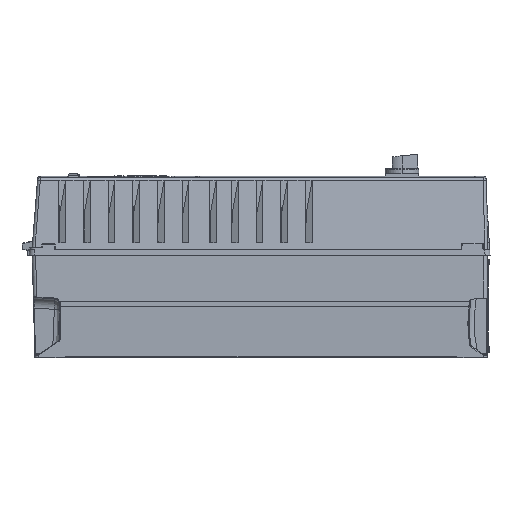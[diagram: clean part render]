
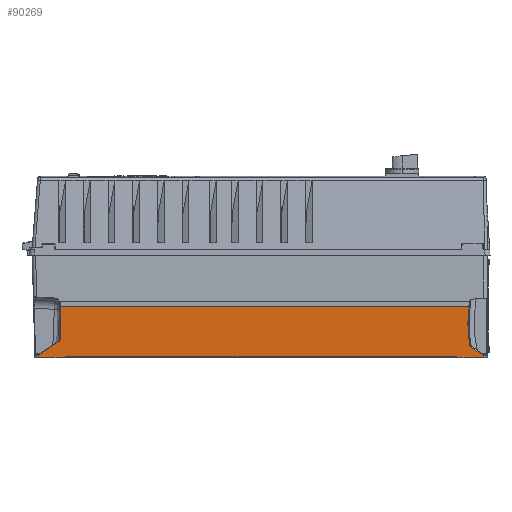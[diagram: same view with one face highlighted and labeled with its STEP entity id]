
A CAD part, left-side view. The second image highlights one B-rep face of the part: STEP entity #90269.
In plain terms, the highlighted planar face has unit normal (-1, 0, -0.024).
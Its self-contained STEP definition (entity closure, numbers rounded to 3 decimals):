
#2395=CARTESIAN_POINT('',(-119.001,314.035,
-149.968));
#2417=CARTESIAN_POINT('',(-119.074,314.114,
-146.974));
#2419=DIRECTION('',(0.024,-0.026,-0.999));
#2420=VECTOR('',#2419,2.996);
#2421=CARTESIAN_POINT('',(-119.074,314.114,
-146.974));
#2422=LINE('',#2421,#2420);
#2667=CARTESIAN_POINT('',(-120.75,-296.785,
-78.395));
#2669=DIRECTION('',(0.,1.,0.));
#2670=VECTOR('',#2669,579.587);
#2671=CARTESIAN_POINT('',(-120.75,-296.785,
-78.395));
#2672=LINE('',#2671,#2670);
#3037=DIRECTION('',(0.024,0.,-1.));
#3038=VECTOR('',#3037,2.993);
#3039=CARTESIAN_POINT('',(-119.074,-318.,
-146.976));
#3040=LINE('',#3039,#3038);
#3041=DIRECTION('',(0.,1.,0.));
#3042=VECTOR('',#3041,36.727);
#3043=CARTESIAN_POINT('',(-119.001,-318.,
-149.968));
#3044=LINE('',#3043,#3042);
#3045=CARTESIAN_POINT('',(-119.001,-281.273,
-149.968));
#3046=CARTESIAN_POINT('',(-119.001,-281.041,
-149.968));
#3047=CARTESIAN_POINT('',(-119.002,-280.587,
-149.919));
#3048=CARTESIAN_POINT('',(-119.005,-280.154,
-149.779));
#3049=CARTESIAN_POINT('',(-119.008,-279.943,
-149.684));
#3051=CARTESIAN_POINT('',(-119.008,-279.943,
-149.684));
#3052=CARTESIAN_POINT('',(-119.011,-279.635,
-149.546));
#3053=CARTESIAN_POINT('',(-119.016,-279.002,
-149.34));
#3054=CARTESIAN_POINT('',(-119.018,-278.339,
-149.268));
#3055=CARTESIAN_POINT('',(-119.018,-278.,
-149.268));
#3057=DIRECTION('',(0.,1.,0.));
#3058=VECTOR('',#3057,552.033);
#3059=CARTESIAN_POINT('',(-119.018,-278.,
-149.268));
#3060=LINE('',#3059,#3058);
#3061=CARTESIAN_POINT('',(-119.018,274.033,
-149.268));
#3062=CARTESIAN_POINT('',(-119.018,274.371,
-149.268));
#3063=CARTESIAN_POINT('',(-119.016,275.032,
-149.34));
#3064=CARTESIAN_POINT('',(-119.011,275.666,
-149.545));
#3065=CARTESIAN_POINT('',(-119.008,275.976,
-149.684));
#3067=CARTESIAN_POINT('',(-119.008,275.976,
-149.684));
#3068=CARTESIAN_POINT('',(-119.005,276.187,
-149.779));
#3069=CARTESIAN_POINT('',(-119.002,276.621,
-149.919));
#3070=CARTESIAN_POINT('',(-119.001,277.074,
-149.968));
#3071=CARTESIAN_POINT('',(-119.001,277.305,
-149.968));
#3073=DIRECTION('',(0.,1.,0.));
#3074=VECTOR('',#3073,36.73);
#3075=CARTESIAN_POINT('',(-119.001,277.305,
-149.968));
#3076=LINE('',#3075,#3074);
#3077=CARTESIAN_POINT('',(-119.074,314.114,
-146.974));
#3078=CARTESIAN_POINT('',(-119.074,313.933,
-146.963));
#3079=CARTESIAN_POINT('',(-119.075,313.575,
-146.916));
#3080=CARTESIAN_POINT('',(-119.079,313.035,
-146.767));
#3081=CARTESIAN_POINT('',(-119.084,312.525,
-146.545));
#3082=CARTESIAN_POINT('',(-119.089,312.221,
-146.361));
#3083=CARTESIAN_POINT('',(-119.091,312.077,
-146.259));
#3085=DIRECTION('',(-0.014,-0.819,0.574));
#3086=VECTOR('',#3085,33.218);
#3087=CARTESIAN_POINT('',(-119.091,312.077,
-146.259));
#3088=LINE('',#3087,#3086);
#3089=CARTESIAN_POINT('',(-119.557,284.869,
-127.208));
#3090=CARTESIAN_POINT('',(-119.562,284.578,
-127.005));
#3091=CARTESIAN_POINT('',(-119.574,284.082,
-126.533));
#3092=CARTESIAN_POINT('',(-119.596,283.557,
-125.608));
#3093=CARTESIAN_POINT('',(-119.612,283.407,
-124.938));
#3094=CARTESIAN_POINT('',(-119.621,283.382,
-124.581));
#3096=CARTESIAN_POINT('',(-119.621,283.382,
-124.581));
#3097=CARTESIAN_POINT('',(-119.809,282.842,
-116.89));
#3098=CARTESIAN_POINT('',(-120.185,282.206,
-101.501));
#3099=CARTESIAN_POINT('',(-120.562,282.455,
-86.099));
#3100=CARTESIAN_POINT('',(-120.75,282.802,
-78.395));
#3102=CARTESIAN_POINT('',(-120.75,-296.785,
-78.395));
#3103=CARTESIAN_POINT('',(-120.603,-296.118,
-84.42));
#3104=CARTESIAN_POINT('',(-120.308,-295.333,
-96.462));
#3105=CARTESIAN_POINT('',(-119.867,-295.777,
-114.529));
#3106=CARTESIAN_POINT('',(-119.574,-297.153,
-126.502));
#3107=CARTESIAN_POINT('',(-119.428,-298.114,
-132.477));
#3109=CARTESIAN_POINT('',(-119.428,-298.114,
-132.477));
#3110=CARTESIAN_POINT('',(-119.421,-298.165,
-132.793));
#3111=CARTESIAN_POINT('',(-119.406,-298.345,
-133.385));
#3112=CARTESIAN_POINT('',(-119.386,-298.851,
-134.192));
#3113=CARTESIAN_POINT('',(-119.376,-299.305,
-134.611));
#3114=CARTESIAN_POINT('',(-119.372,-299.566,
-134.794));
#3116=DIRECTION('',(0.014,-0.819,-0.574));
#3117=VECTOR('',#3116,19.991);
#3118=CARTESIAN_POINT('',(-119.372,-299.566,
-134.794));
#3119=LINE('',#3118,#3117);
#3120=CARTESIAN_POINT('',(-119.091,-315.94,
-146.259));
#3121=CARTESIAN_POINT('',(-119.089,-316.085,
-146.361));
#3122=CARTESIAN_POINT('',(-119.084,-316.39,
-146.546));
#3123=CARTESIAN_POINT('',(-119.079,-316.905,
-146.77));
#3124=CARTESIAN_POINT('',(-119.075,-317.452,
-146.919));
#3125=CARTESIAN_POINT('',(-119.074,-317.816,
-146.965));
#3126=CARTESIAN_POINT('',(-119.074,-318.,
-146.976));
#73854=VERTEX_POINT('',#2667);
#73856=VERTEX_POINT('',#3107);
#73858=VERTEX_POINT('',#3114);
#73861=CARTESIAN_POINT('',(-119.091,-315.94,
-146.259));
#73862=VERTEX_POINT('',#73861);
#73864=VERTEX_POINT('',#3126);
#73980=VERTEX_POINT('',#2417);
#73982=VERTEX_POINT('',#3083);
#73985=CARTESIAN_POINT('',(-119.557,284.869,
-127.208));
#73986=VERTEX_POINT('',#73985);
#73988=VERTEX_POINT('',#3094);
#73990=VERTEX_POINT('',#3100);
#76485=CARTESIAN_POINT('',(-119.001,-318.,
-149.968));
#76486=VERTEX_POINT('',#76485);
#77389=VERTEX_POINT('',#2395);
#77392=CARTESIAN_POINT('',(-119.001,277.305,
-149.968));
#77393=VERTEX_POINT('',#77392);
#77395=VERTEX_POINT('',#3067);
#77397=VERTEX_POINT('',#3061);
#77400=CARTESIAN_POINT('',(-119.018,-278.,
-149.268));
#77401=VERTEX_POINT('',#77400);
#77403=VERTEX_POINT('',#3051);
#77405=VERTEX_POINT('',#3045);
#90232=CARTESIAN_POINT('',(-119.,-323.,-150.));
#90233=DIRECTION('',(-1.,0.,-0.024));
#90234=DIRECTION('',(-0.024,0.,1.));
#90235=AXIS2_PLACEMENT_3D('',#90232,#90233,#90234);
#90236=PLANE('',#90235);
#90237=ORIENTED_EDGE('',*,*,#88297,.T.);
#90239=ORIENTED_EDGE('',*,*,#90238,.T.);
#90241=ORIENTED_EDGE('',*,*,#90240,.T.);
#90243=ORIENTED_EDGE('',*,*,#90242,.T.);
#90245=ORIENTED_EDGE('',*,*,#90244,.T.);
#90247=ORIENTED_EDGE('',*,*,#90246,.T.);
#90248=ORIENTED_EDGE('',*,*,#89149,.T.);
#90249=ORIENTED_EDGE('',*,*,#89164,.T.);
#90250=ORIENTED_EDGE('',*,*,#89226,.F.);
#90252=ORIENTED_EDGE('',*,*,#90251,.T.);
#90254=ORIENTED_EDGE('',*,*,#90253,.T.);
#90256=ORIENTED_EDGE('',*,*,#90255,.T.);
#90258=ORIENTED_EDGE('',*,*,#90257,.T.);
#90259=ORIENTED_EDGE('',*,*,#89706,.F.);
#90261=ORIENTED_EDGE('',*,*,#90260,.T.);
#90263=ORIENTED_EDGE('',*,*,#90262,.T.);
#90265=ORIENTED_EDGE('',*,*,#90264,.T.);
#90266=ORIENTED_EDGE('',*,*,#90225,.T.);
#90267=EDGE_LOOP('',(#90237,#90239,#90241,#90243,#90245,#90247,#90248,#90249,
#90250,#90252,#90254,#90256,#90258,#90259,#90261,#90263,#90265,#90266));
#90268=FACE_OUTER_BOUND('',#90267,.F.);
#3050=B_SPLINE_CURVE_WITH_KNOTS('',3,(#3045,#3046,#3047,#3048,#3049),
.UNSPECIFIED.,.F.,.F.,(4,1,4),(0.,0.5,1.),.UNSPECIFIED.);
#3056=B_SPLINE_CURVE_WITH_KNOTS('',3,(#3051,#3052,#3053,#3054,#3055),
.UNSPECIFIED.,.F.,.F.,(4,1,4),(0.,0.5,1.),.UNSPECIFIED.);
#3066=B_SPLINE_CURVE_WITH_KNOTS('',3,(#3061,#3062,#3063,#3064,#3065),
.UNSPECIFIED.,.F.,.F.,(4,1,4),(0.,0.5,1.),.UNSPECIFIED.);
#3072=B_SPLINE_CURVE_WITH_KNOTS('',3,(#3067,#3068,#3069,#3070,#3071),
.UNSPECIFIED.,.F.,.F.,(4,1,4),(0.,0.5,1.),.UNSPECIFIED.);
#3084=B_SPLINE_CURVE_WITH_KNOTS('',3,(#3077,#3078,#3079,#3080,#3081,#3082,
#3083),.UNSPECIFIED.,.F.,.F.,(4,1,1,1,4),(0.,0.25,0.5,0.75,1.),
.UNSPECIFIED.);
#3095=B_SPLINE_CURVE_WITH_KNOTS('',3,(#3089,#3090,#3091,#3092,#3093,#3094),
.UNSPECIFIED.,.F.,.F.,(4,1,1,4),(0.,0.333,0.667,1.),
.UNSPECIFIED.);
#3101=B_SPLINE_CURVE_WITH_KNOTS('',3,(#3096,#3097,#3098,#3099,#3100),
.UNSPECIFIED.,.F.,.F.,(4,1,4),(0.,0.5,1.),.UNSPECIFIED.);
#3108=B_SPLINE_CURVE_WITH_KNOTS('',3,(#3102,#3103,#3104,#3105,#3106,#3107),
.UNSPECIFIED.,.F.,.F.,(4,1,1,4),(0.,0.333,0.667,1.),
.UNSPECIFIED.);
#3115=B_SPLINE_CURVE_WITH_KNOTS('',3,(#3109,#3110,#3111,#3112,#3113,#3114),
.UNSPECIFIED.,.F.,.F.,(4,1,1,4),(0.,0.333,0.667,1.),
.UNSPECIFIED.);
#3127=B_SPLINE_CURVE_WITH_KNOTS('',3,(#3120,#3121,#3122,#3123,#3124,#3125,
#3126),.UNSPECIFIED.,.F.,.F.,(4,1,1,1,4),(0.,0.25,0.5,0.75,1.),
.UNSPECIFIED.);
#88297=EDGE_CURVE('',#73864,#76486,#3040,.T.);
#89149=EDGE_CURVE('',#77395,#77393,#3072,.T.);
#89164=EDGE_CURVE('',#77393,#77389,#3076,.T.);
#89226=EDGE_CURVE('',#73980,#77389,#2422,.T.);
#89706=EDGE_CURVE('',#73854,#73990,#2672,.T.);
#90225=EDGE_CURVE('',#73862,#73864,#3127,.T.);
#90238=EDGE_CURVE('',#76486,#77405,#3044,.T.);
#90240=EDGE_CURVE('',#77405,#77403,#3050,.T.);
#90242=EDGE_CURVE('',#77403,#77401,#3056,.T.);
#90244=EDGE_CURVE('',#77401,#77397,#3060,.T.);
#90246=EDGE_CURVE('',#77397,#77395,#3066,.T.);
#90251=EDGE_CURVE('',#73980,#73982,#3084,.T.);
#90253=EDGE_CURVE('',#73982,#73986,#3088,.T.);
#90255=EDGE_CURVE('',#73986,#73988,#3095,.T.);
#90257=EDGE_CURVE('',#73988,#73990,#3101,.T.);
#90260=EDGE_CURVE('',#73854,#73856,#3108,.T.);
#90262=EDGE_CURVE('',#73856,#73858,#3115,.T.);
#90264=EDGE_CURVE('',#73858,#73862,#3119,.T.);
#90269=ADVANCED_FACE('',(#90268),#90236,.T.);
